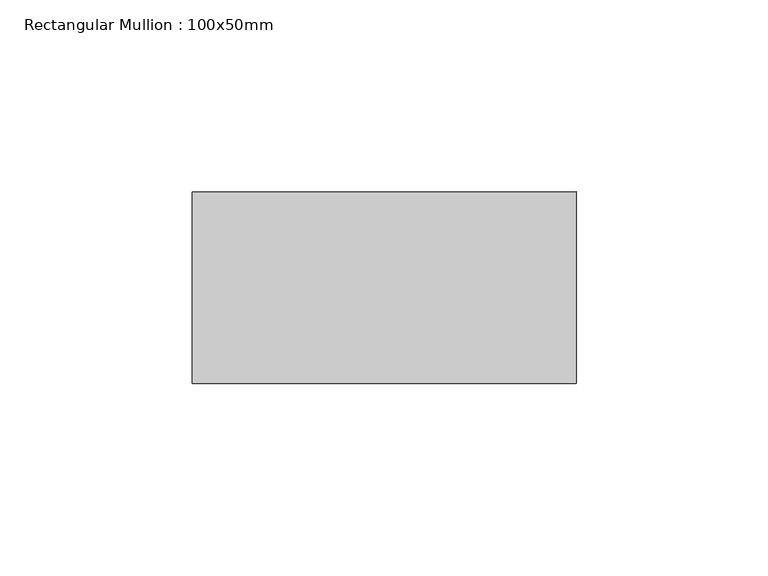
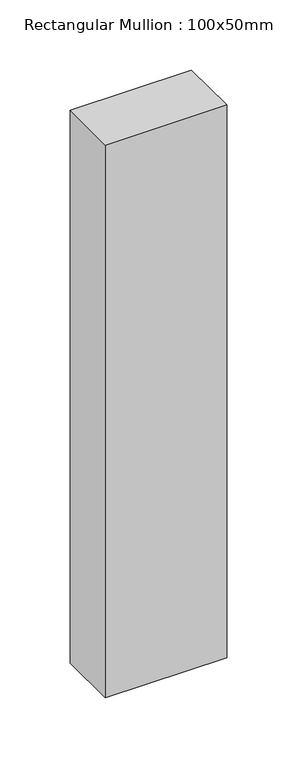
"""IFC4 building model written with IfcOpenShell, lengths in millimetres: member geometry, Rectangular Mullion : 100x50mm."""

from ifc_helpers import new_model, si_unit, frame, origin, place, context, project, spatial, polyline, outline, extrude, source, transform, mapped, element, save


def rectangular_mullion_100x50mm_ab81f101(model_context):
    return source(origin(), model_context, "Body", "SweptSolid", [
        extrude(outline(polyline([(0.0, 25.0), (0.0, -25.0), (-100.0, -25.0), (-100.0, 25.0), (0.0, 25.0)])), frame((0.0, 0.0, -481.4890237), z_axis=(0.0, 0.0, 1.0), x_axis=(1.0, 0.0, 0.0)), (0.0, 0.0, 1.0), 481.4890237),
    ])


if __name__ == "__main__":
    model = new_model("IFC4")
    model_context = context("Model", 3, world=origin())
    ifc_project = project(units=[si_unit("LENGTHUNIT", "METRE", prefix="MILLI")], contexts=[model_context])
    site = spatial("IfcSite", under=ifc_project)
    building = spatial("IfcBuilding", under=site)
    placement = place(None, origin())
    rectangular_mullion_100x50mm_shape = rectangular_mullion_100x50mm_ab81f101(model_context)
    element("IfcMember", 1, ObjectType="Rectangular Mullion : 100x50mm", at=placement, inside=building, context=model_context, shape_type="MappedRepresentation", body=[
        mapped(rectangular_mullion_100x50mm_shape, transform((0.0, 0.0, 0.0), x_axis=(1.0, 0.0, 0.0), y_axis=(0.0, 1.0, 0.0), z_axis=(0.0, 0.0, 1.0))),
    ])
    save(model, "model.ifc")
